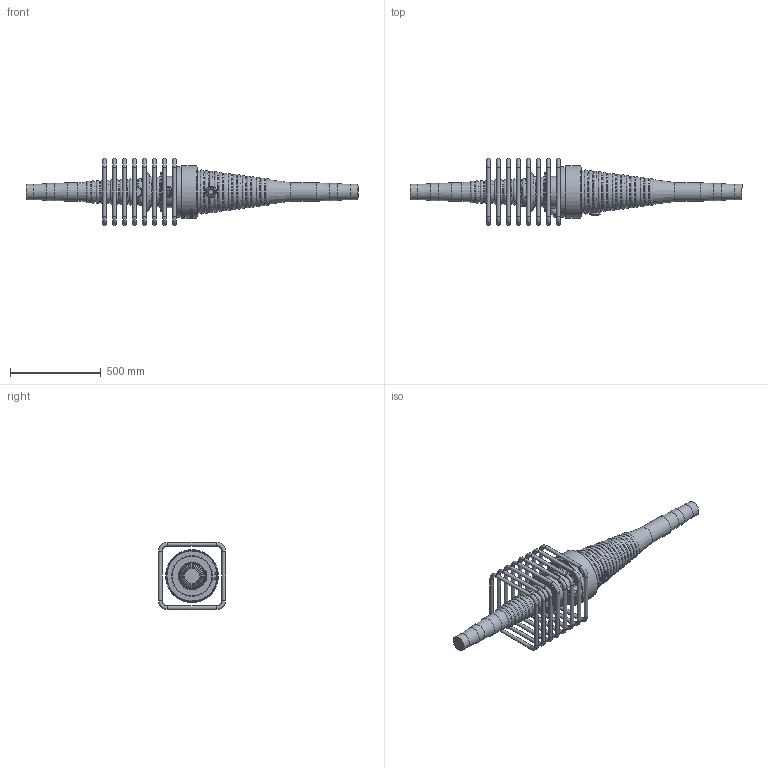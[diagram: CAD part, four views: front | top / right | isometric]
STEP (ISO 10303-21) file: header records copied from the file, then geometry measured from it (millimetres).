
FILE_DESCRIPTION(/* description */ (''),/* implementation_level */ '2;1');
FILE_NAME(/* name */ 'BBR VT CONA CMI BT 1906_Couler K Assembly_CS-43,35_Stirrup.stp',/* time_stamp */ '2024-10-29T14:43:00+01:00',/* author */ ('tk'),/* organization */ (''),/* preprocessor_version */ 'ST-DEVELOPER v20',/* originating_system */ 'Autodesk Inventor 2024',/* authorisation */ '');
FILE_SCHEMA (('AUTOMOTIVE_DESIGN { 1 0 10303 214 3 1 1 }'));
Products named in the file (1): BBR VT CONA CMI BT 1906_Couler K Assembly_CS-43,35_Stirrup
Bounding box: 1830.13 x 370 x 370 mm (x, y, z)
Volume: 37880613.4 mm3; surface area: 1673746.4 mm2
Topology: 9 solids, 9 shells, 1030 faces, 2801 edges, 1852 vertices
Faces by surface type: bspline 419, plane 354, cylinder 126, torus 87, cone 34, sphere 10
Full cylindrical faces by diameter (mm): 20 x32, 34 x1, 57 x2, 84 x2, 94 x2, 104 x2, 164 x1, 218 x1, 223.017 x1, 273 x1, 280 x1, 286 x1, 290 x1
Entity records: 44693 total; most frequent: CARTESIAN_POINT 20435, ORIENTED_EDGE 5598, DIRECTION 3985, EDGE_CURVE 2799, VERTEX_POINT 1852, AXIS2_PLACEMENT_3D 1441, EDGE_LOOP 1111, LINE 1103
